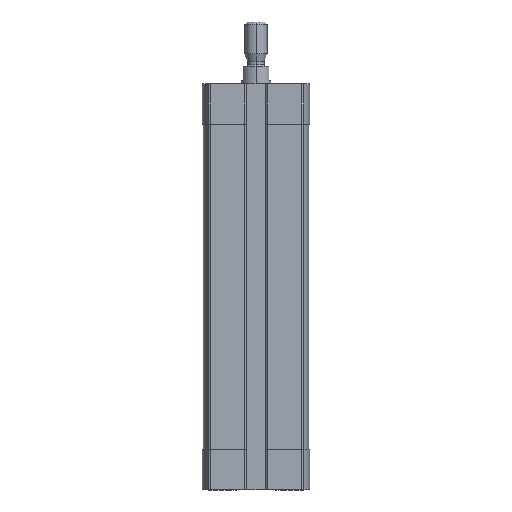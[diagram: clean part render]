
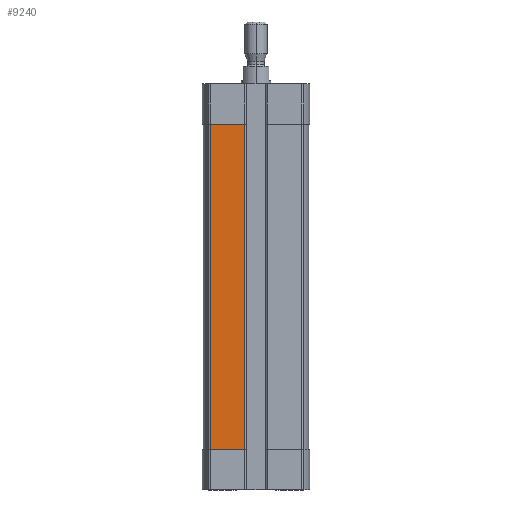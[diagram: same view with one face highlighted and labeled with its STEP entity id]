
A CAD part, left-side view. The second image highlights one B-rep face of the part: STEP entity #9240.
In plain terms, the highlighted planar face has unit normal (-1, 0, 0).
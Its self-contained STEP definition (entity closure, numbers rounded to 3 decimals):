
#301 = LINE ( 'NONE', #2123, #4790 ) ;
#706 = DIRECTION ( 'NONE',  ( 0., 1., 0. ) ) ;
#1401 = EDGE_CURVE ( 'NONE', #10843, #6264, #10191, .T. ) ;
#1658 = DIRECTION ( 'NONE',  ( 0., 0., -1. ) ) ;
#1763 = DIRECTION ( 'NONE',  ( 0., 0., 1. ) ) ;
#1878 = ORIENTED_EDGE ( 'NONE', *, *, #9152, .T. ) ;
#2113 = LINE ( 'NONE', #11445, #6614 ) ;
#2123 = CARTESIAN_POINT ( 'NONE',  ( -14.25, 3.1, -99. ) ) ;
#3658 = CARTESIAN_POINT ( 'NONE',  ( -14.25, 3.1, -99. ) ) ;
#3976 = ORIENTED_EDGE ( 'NONE', *, *, #4654, .T. ) ;
#3988 = EDGE_LOOP ( 'NONE', ( #4599, #3976, #1878, #10131 ) ) ;
#4599 = ORIENTED_EDGE ( 'NONE', *, *, #8081, .T. ) ;
#4654 = EDGE_CURVE ( 'NONE', #7528, #8334, #301, .T. ) ;
#4666 = LINE ( 'NONE', #8962, #6769 ) ;
#4790 = VECTOR ( 'NONE', #9352, 1000. ) ;
#4938 = CARTESIAN_POINT ( 'NONE',  ( -14.25, 3.1, -11. ) ) ;
#6032 = FACE_OUTER_BOUND ( 'NONE', #3988, .T. ) ;
#6241 = CARTESIAN_POINT ( 'NONE',  ( -14.25, 12.347, -99. ) ) ;
#6264 = VERTEX_POINT ( 'NONE', #11314 ) ;
#6614 = VECTOR ( 'NONE', #706, 1000. ) ;
#6769 = VECTOR ( 'NONE', #9864, 1000. ) ;
#7155 = DIRECTION ( 'NONE',  ( -1., 0., 0. ) ) ;
#7461 = CARTESIAN_POINT ( 'NONE',  ( -14.25, 12.347, -11. ) ) ;
#7528 = VERTEX_POINT ( 'NONE', #3658 ) ;
#7803 = VECTOR ( 'NONE', #1658, 1000. ) ;
#7945 = CARTESIAN_POINT ( 'NONE',  ( -14.25, 12.347, -99. ) ) ;
#8081 = EDGE_CURVE ( 'NONE', #6264, #7528, #4666, .T. ) ;
#8263 = AXIS2_PLACEMENT_3D ( 'NONE', #6241, #7155, #1763 ) ;
#8334 = VERTEX_POINT ( 'NONE', #4938 ) ;
#8962 = CARTESIAN_POINT ( 'NONE',  ( -14.25, 12.347, -99. ) ) ;
#9152 = EDGE_CURVE ( 'NONE', #8334, #10843, #2113, .T. ) ;
#9240 = ADVANCED_FACE ( 'NONE', ( #6032 ), #11599, .T. ) ;
#9352 = DIRECTION ( 'NONE',  ( 0., 0., 1. ) ) ;
#9864 = DIRECTION ( 'NONE',  ( 0., -1., 0. ) ) ;
#10131 = ORIENTED_EDGE ( 'NONE', *, *, #1401, .T. ) ;
#10191 = LINE ( 'NONE', #7945, #7803 ) ;
#10843 = VERTEX_POINT ( 'NONE', #7461 ) ;
#11314 = CARTESIAN_POINT ( 'NONE',  ( -14.25, 12.347, -99. ) ) ;
#11445 = CARTESIAN_POINT ( 'NONE',  ( -14.25, 0., -11. ) ) ;
#11599 = PLANE ( 'NONE',  #8263 ) ;
